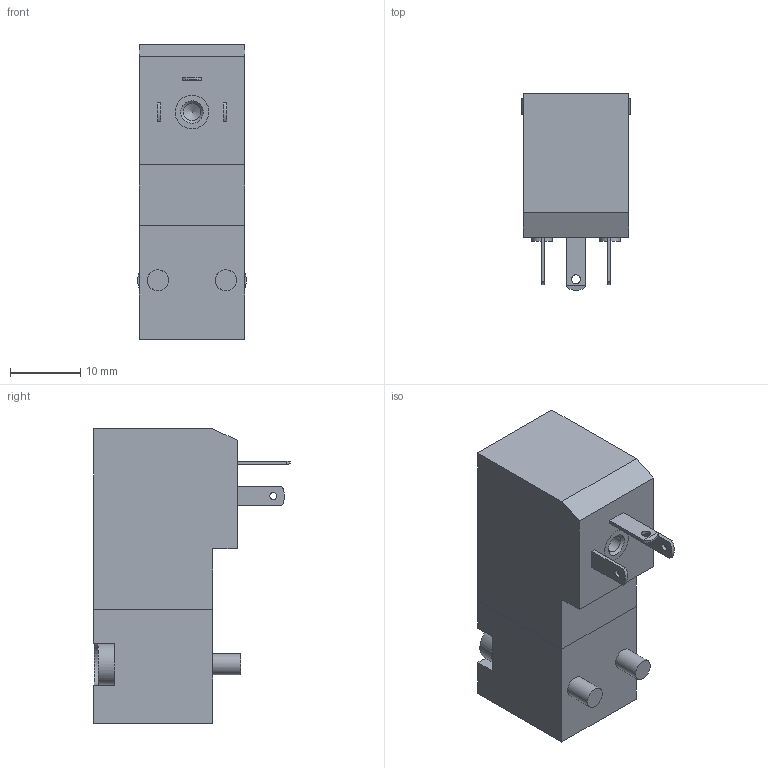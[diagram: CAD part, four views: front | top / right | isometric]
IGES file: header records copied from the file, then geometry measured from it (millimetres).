
Global section: file name: N3#9_R#-2; native system: Autodesk Inventor 2014; preprocessor: unknown; author: A. Manieri; organization: Pneumax S.p.A.; date: 20160919.134000; units: millimetre
Bounding box: 15.5 x 28.1 x 42 mm (x, y, z)
Volume: 11546.4 mm3; surface area: 3808.9 mm2
Topology: 1 solids, 1 shells, 89 faces, 233 edges, 154 vertices
Faces by surface type: bspline 89
